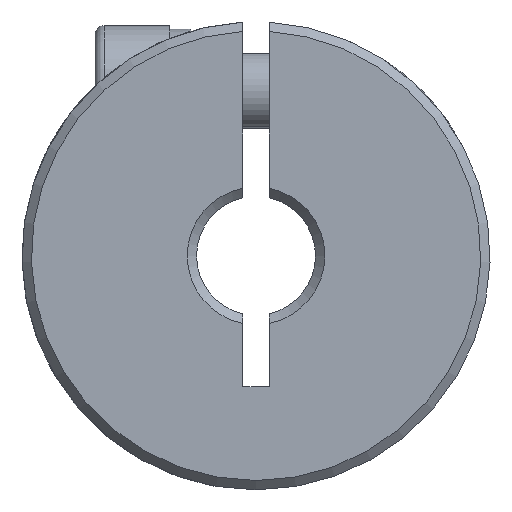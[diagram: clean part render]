
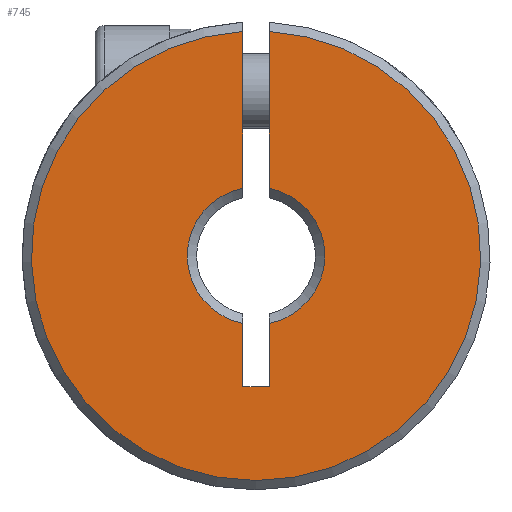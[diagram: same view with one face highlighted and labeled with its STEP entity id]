
A CAD part, front view. The second image highlights one B-rep face of the part: STEP entity #745.
In plain terms, the highlighted planar face has unit normal (0, -1, 0).
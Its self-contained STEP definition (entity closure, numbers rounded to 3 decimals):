
#17 = ORIENTED_EDGE ( 'NONE', *, *, #438, .F. ) ;
#151 = EDGE_CURVE ( 'NONE', #2655, #312, #1091, .T. ) ;
#212 = DIRECTION ( 'NONE',  ( 0., 0., 1. ) ) ;
#312 = VERTEX_POINT ( 'NONE', #3249 ) ;
#338 = CIRCLE ( 'NONE', #1865, 12. ) ;
#354 = ORIENTED_EDGE ( 'NONE', *, *, #1993, .F. ) ;
#364 = DIRECTION ( 'NONE',  ( 0., 0., 1. ) ) ;
#400 = ORIENTED_EDGE ( 'NONE', *, *, #1743, .T. ) ;
#438 = EDGE_CURVE ( 'NONE', #1088, #1976, #3462, .T. ) ;
#443 = DIRECTION ( 'NONE',  ( 0., 1., 0. ) ) ;
#452 = CARTESIAN_POINT ( 'NONE',  ( -0.7, 0.25, -7. ) ) ;
#463 = EDGE_CURVE ( 'NONE', #3422, #312, #1710, .T. ) ;
#492 = CARTESIAN_POINT ( 'NONE',  ( 0.7, 0.25, -7. ) ) ;
#609 = DIRECTION ( 'NONE',  ( 0., 1., 0. ) ) ;
#625 = DIRECTION ( 'NONE',  ( 0., 0., -1. ) ) ;
#710 = VECTOR ( 'NONE', #2876, 1000. ) ;
#729 = ORIENTED_EDGE ( 'NONE', *, *, #463, .F. ) ;
#745 = ADVANCED_FACE ( 'NONE', ( #3257 ), #2355, .F. ) ;
#829 = DIRECTION ( 'NONE',  ( 0., 0., 1. ) ) ;
#858 = DIRECTION ( 'NONE',  ( 0., -1., 0. ) ) ;
#867 = CARTESIAN_POINT ( 'NONE',  ( -0.7, 0.25, -7. ) ) ;
#998 = CARTESIAN_POINT ( 'NONE',  ( 0.7, 0.25, -7. ) ) ;
#1003 = VECTOR ( 'NONE', #1539, 1000. ) ;
#1039 = DIRECTION ( 'NONE',  ( 0., 1., 0. ) ) ;
#1088 = VERTEX_POINT ( 'NONE', #3064 ) ;
#1091 = CIRCLE ( 'NONE', #1835, 3.675 ) ;
#1142 = CARTESIAN_POINT ( 'NONE',  ( 0.7, 0.25, 3.608 ) ) ;
#1235 = CIRCLE ( 'NONE', #2267, 3.675 ) ;
#1258 = DIRECTION ( 'NONE',  ( 1., 0., 0. ) ) ;
#1348 = VECTOR ( 'NONE', #364, 1000. ) ;
#1369 = CARTESIAN_POINT ( 'NONE',  ( 0., 0.25, 0. ) ) ;
#1374 = CARTESIAN_POINT ( 'NONE',  ( 0., 0.25, 0. ) ) ;
#1404 = VECTOR ( 'NONE', #625, 1000. ) ;
#1519 = ORIENTED_EDGE ( 'NONE', *, *, #2205, .F. ) ;
#1539 = DIRECTION ( 'NONE',  ( 0., 0., 1. ) ) ;
#1697 = DIRECTION ( 'NONE',  ( 0., 0., 1. ) ) ;
#1701 = LINE ( 'NONE', #998, #3372 ) ;
#1710 = LINE ( 'NONE', #1991, #1348 ) ;
#1713 = VERTEX_POINT ( 'NONE', #2219 ) ;
#1739 = LINE ( 'NONE', #492, #1003 ) ;
#1743 = EDGE_CURVE ( 'NONE', #2446, #1713, #338, .T. ) ;
#1835 = AXIS2_PLACEMENT_3D ( 'NONE', #2648, #1039, #2911 ) ;
#1865 = AXIS2_PLACEMENT_3D ( 'NONE', #1369, #858, #829 ) ;
#1886 = ORIENTED_EDGE ( 'NONE', *, *, #151, .T. ) ;
#1903 = CARTESIAN_POINT ( 'NONE',  ( -0.7, 0.25, 3.608 ) ) ;
#1971 = LINE ( 'NONE', #452, #710 ) ;
#1976 = VERTEX_POINT ( 'NONE', #2109 ) ;
#1991 = CARTESIAN_POINT ( 'NONE',  ( 0.7, 0.25, -7. ) ) ;
#1993 = EDGE_CURVE ( 'NONE', #1976, #3422, #1701, .T. ) ;
#2109 = CARTESIAN_POINT ( 'NONE',  ( -0.7, 0.25, -7. ) ) ;
#2184 = EDGE_CURVE ( 'NONE', #2655, #1713, #1739, .T. ) ;
#2205 = EDGE_CURVE ( 'NONE', #2446, #2527, #1971, .T. ) ;
#2219 = CARTESIAN_POINT ( 'NONE',  ( 0.7, 0.25, 11.98 ) ) ;
#2256 = CARTESIAN_POINT ( 'NONE',  ( 0.7, 0.25, -7. ) ) ;
#2267 = AXIS2_PLACEMENT_3D ( 'NONE', #1374, #609, #1697 ) ;
#2355 = PLANE ( 'NONE',  #2742 ) ;
#2446 = VERTEX_POINT ( 'NONE', #2475 ) ;
#2475 = CARTESIAN_POINT ( 'NONE',  ( -0.7, 0.25, 11.98 ) ) ;
#2527 = VERTEX_POINT ( 'NONE', #1903 ) ;
#2648 = CARTESIAN_POINT ( 'NONE',  ( 0., 0.25, 0. ) ) ;
#2655 = VERTEX_POINT ( 'NONE', #1142 ) ;
#2742 = AXIS2_PLACEMENT_3D ( 'NONE', #2906, #443, #212 ) ;
#2808 = EDGE_LOOP ( 'NONE', ( #3178, #1886, #729, #354, #17, #3353, #1519, #400 ) ) ;
#2876 = DIRECTION ( 'NONE',  ( 0., 0., -1. ) ) ;
#2906 = CARTESIAN_POINT ( 'NONE',  ( 12.5, 0.25, -50. ) ) ;
#2911 = DIRECTION ( 'NONE',  ( 0., 0., 1. ) ) ;
#3064 = CARTESIAN_POINT ( 'NONE',  ( -0.7, 0.25, -3.608 ) ) ;
#3178 = ORIENTED_EDGE ( 'NONE', *, *, #2184, .F. ) ;
#3249 = CARTESIAN_POINT ( 'NONE',  ( 0.7, 0.25, -3.608 ) ) ;
#3257 = FACE_OUTER_BOUND ( 'NONE', #2808, .T. ) ;
#3353 = ORIENTED_EDGE ( 'NONE', *, *, #3361, .T. ) ;
#3361 = EDGE_CURVE ( 'NONE', #1088, #2527, #1235, .T. ) ;
#3372 = VECTOR ( 'NONE', #1258, 1000. ) ;
#3422 = VERTEX_POINT ( 'NONE', #2256 ) ;
#3462 = LINE ( 'NONE', #867, #1404 ) ;
